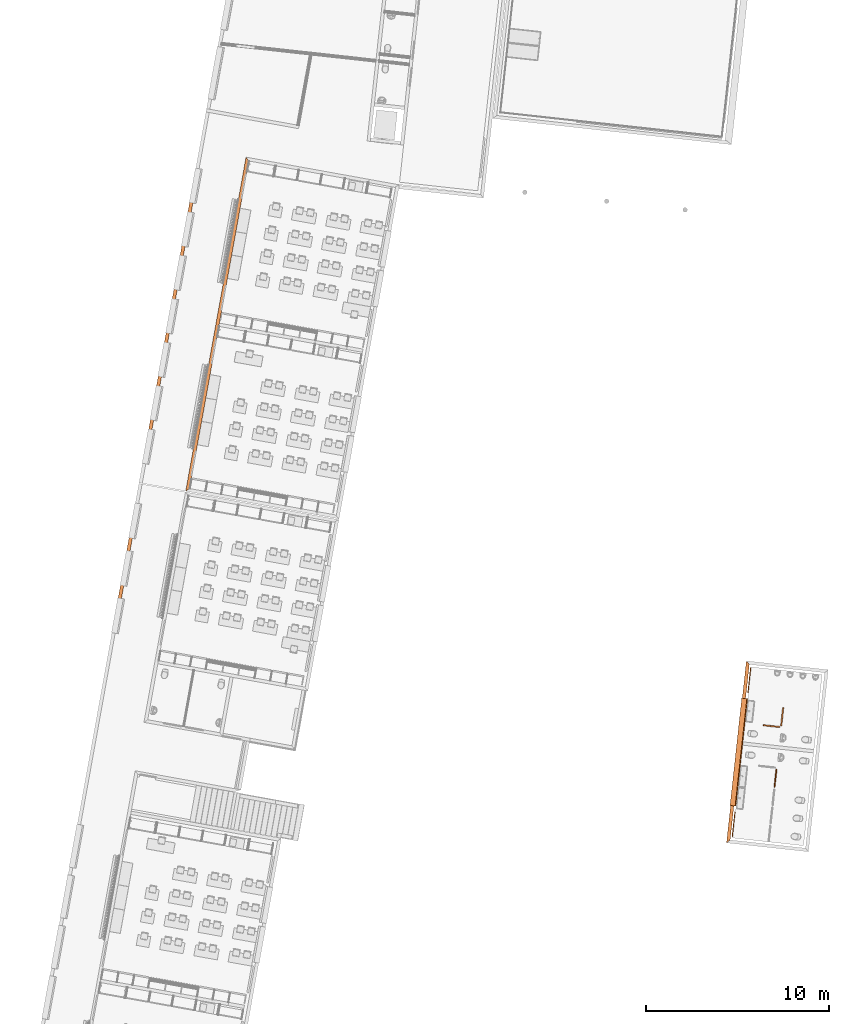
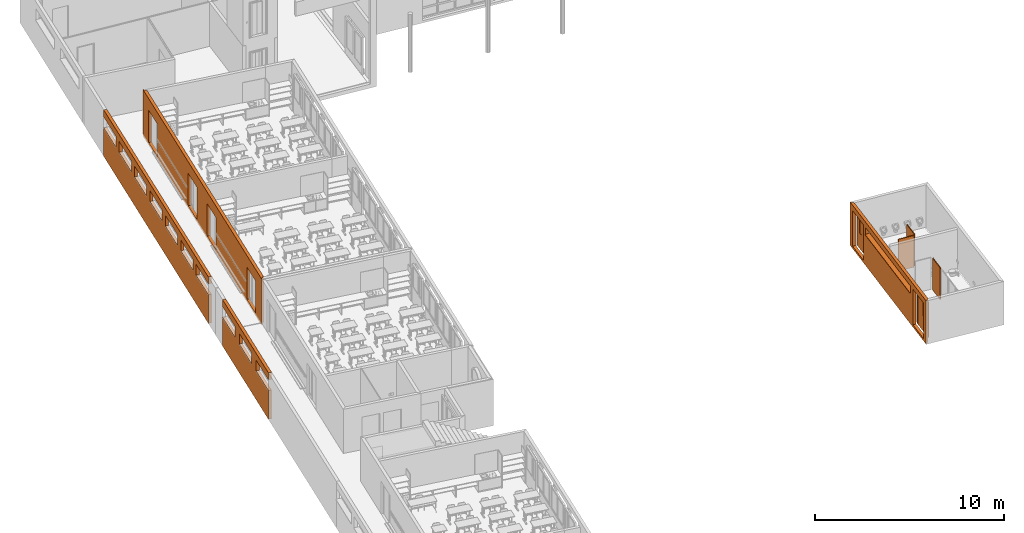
# One storey, part 65 of 79: 10 proxies.
"""IFC2X3 building model written with IfcOpenShell, lengths in metres."""

import ifcopenshell
import ifcopenshell.guid

model = None  # the IFC model being written
_history = None  # IfcOwnerHistory: only IFC2X3 demands one
_inside = {}  # id of a spatial element -> (the spatial element, [elements in it])
_under = {}  # id of a project, library or spatial element -> (it, [spatial elements below it])
_declared = {}  # id of a project -> (the project, [libraries it declares])
_typed = {}  # id of a type object -> (the type object, [elements of that type])
_made_of = {}  # id of a material, layer set ... -> (it, [elements and type objects made of it])


def new_model(schema):
    """Start an empty IFC model of exactly this schema.

    Asked for "IFC4X3", IfcOpenShell would pick the latest addendum, in which some entities
    have other attributes; the version numbers below select the first issue.
    IFC2X3 requires an IfcOwnerHistory on every rooted entity: one is made here for all.
    """
    global model, _history
    if schema == "IFC4X3":
        model = ifcopenshell.file(schema_version=(4, 3, 0, 0))
    else:
        model = ifcopenshell.file(schema=schema)
    _inside.clear()
    _under.clear()
    _declared.clear()
    _typed.clear()
    _made_of.clear()
    _history = None
    if model.schema == "IFC2X3":
        org = make("IfcOrganization", Name="unknown")
        user = make(
            "IfcPersonAndOrganization",
            ThePerson=make("IfcPerson", FamilyName="unknown"),
            TheOrganization=org,
        )
        app = make(
            "IfcApplication",
            ApplicationDeveloper=org,
            Version="unknown",
            ApplicationFullName="unknown",
            ApplicationIdentifier="unknown",
        )
        _history = make(
            "IfcOwnerHistory",
            OwningUser=user,
            OwningApplication=app,
            ChangeAction="ADDED",
            CreationDate=0,
        )
    return model


def make(cls, **values):
    """One entity of the class cls with the attributes given. An attribute that is None is left unset."""
    return model.create_entity(
        cls, **{name: value for name, value in values.items() if value is not None}
    )


def entity(cls, *values):
    """Any entity or typed value of the class cls, its attributes in the order of the schema. None: left unset."""
    e = model.create_entity(cls)
    for i, value in enumerate(values):
        if value is not None:
            e[i] = value
    return e


def rooted(cls, **values):
    """An entity with a GlobalId (a new one), such as an element, a storey or a relation."""
    return make(cls, GlobalId=ifcopenshell.guid.new(), OwnerHistory=_history, **values)


def si_unit(unit_type, name, prefix=None):
    """IfcSIUnit, for example si_unit("LENGTHUNIT", "METRE", prefix="MILLI")."""
    return make("IfcSIUnit", UnitType=unit_type, Prefix=prefix, Name=name)


def converted_unit(unit_type, name, factor, base, dimensions=None, offset=None):
    """IfcConversionBasedUnit, such as the inch: factor (a typed value) times the base unit."""
    return make(
        "IfcConversionBasedUnit"
        if offset is None
        else "IfcConversionBasedUnitWithOffset",
        ConversionOffset=offset,
        Dimensions=None
        if dimensions is None
        else entity("IfcDimensionalExponents", *dimensions),
        UnitType=unit_type,
        Name=name,
        ConversionFactor=make(
            "IfcMeasureWithUnit", ValueComponent=factor, UnitComponent=base
        ),
    )


def derived_unit(unit_type, elements):
    """IfcDerivedUnit: a product of units, each with its exponent."""
    return make(
        "IfcDerivedUnit",
        Elements=[
            make("IfcDerivedUnitElement", Unit=unit, Exponent=power)
            for unit, power in elements
        ],
        UnitType=unit_type,
    )


def money_unit(currency):
    """IfcMonetaryUnit."""
    return make("IfcMonetaryUnit", Currency=currency)


def assignment(units):
    """IfcUnitAssignment: the units of a project."""
    return None if units is None else make("IfcUnitAssignment", Units=units)


def point(xyz):
    """IfcCartesianPoint."""
    return None if xyz is None else make("IfcCartesianPoint", Coordinates=xyz)


def direction(xyz):
    """IfcDirection."""
    return None if xyz is None else make("IfcDirection", DirectionRatios=xyz)


def frame(location, z_axis=None, x_axis=None):
    """IfcAxis2Placement3D, a coordinate frame: its origin and axes. An axis left out is left unset."""
    return make(
        "IfcAxis2Placement3D",
        Location=point(location),
        Axis=direction(z_axis),
        RefDirection=direction(x_axis),
    )


def origin_with_axes():
    """The frame at (0, 0, 0) with the z axis (0, 0, 1) and the x axis (1, 0, 0) written out."""
    return frame((0.0, 0.0, 0.0), z_axis=(0.0, 0.0, 1.0), x_axis=(1.0, 0.0, 0.0))


def place(relative_to, where):
    """IfcLocalPlacement: puts the frame where relative to a parent placement (None: the world)."""
    return make(
        "IfcLocalPlacement", PlacementRelTo=relative_to, RelativePlacement=where
    )


def context(
    kind, dimensions, precision=None, world=None, true_north=None, identifier=None
):
    """IfcGeometricRepresentationContext, for example the 3D "Model" context."""
    return make(
        "IfcGeometricRepresentationContext",
        ContextIdentifier=identifier,
        ContextType=kind,
        CoordinateSpaceDimension=dimensions,
        Precision=precision,
        WorldCoordinateSystem=world,
        TrueNorth=true_north,
    )


def subcontext(parent, identifier, kind, view, scale=None):
    """IfcGeometricRepresentationSubContext, for example "Body" below "Model"."""
    return make(
        "IfcGeometricRepresentationSubContext",
        ContextIdentifier=identifier,
        ContextType=kind,
        ParentContext=parent,
        TargetScale=scale,
        TargetView=view,
    )


def project(units=None, contexts=None):
    """IfcProject with its units and contexts."""
    return rooted(
        "IfcProject",
        Name="project",
        RepresentationContexts=contexts,
        UnitsInContext=assignment(units),
    )


def spatial(cls, under=None, at=None, **own):
    """A site, building, storey or space (cls), placed at a placement, below another one or the project."""
    s = rooted(cls, ObjectPlacement=at, **own)
    if under is not None:
        _under.setdefault(under.id(), (under, []))[1].append(s)
    return s


def polyline(points):
    """IfcPolyline through the points."""
    return make("IfcPolyline", Points=[point(p) for p in points])


def outline(outer, holes=None, kind="AREA"):
    """IfcArbitraryClosedProfileDef: a profile drawn as a closed curve; with holes, ...WithVoids."""
    if holes is None:
        return make("IfcArbitraryClosedProfileDef", ProfileType=kind, OuterCurve=outer)
    return make(
        "IfcArbitraryProfileDefWithVoids",
        ProfileType=kind,
        OuterCurve=outer,
        InnerCurves=holes,
    )


def extrude(swept, where, along, depth):
    """IfcExtrudedAreaSolid: the profile swept, set in the frame where, extruded along a direction by depth."""
    return make(
        "IfcExtrudedAreaSolid",
        SweptArea=swept,
        Position=where,
        ExtrudedDirection=direction(along),
        Depth=depth,
    )


def boolean(op, a, b):
    """IfcBooleanResult of two solids."""
    return make("IfcBooleanResult", Operator=op, FirstOperand=a, SecondOperand=b)


def faces_of(points, faces, orient=None, outer=None):
    """IfcFace entities. A face is a list of loops; a loop is a list of indices into points, from 0.

    orient and outer hold one flag for each loop. By default every Orientation is true, the
    first loop of a face is its IfcFaceOuterBound and the others are IfcFaceBound.
    """
    made = []
    for i, loops in enumerate(faces):
        bounds = []
        for j, loop in enumerate(loops):
            is_outer = j == 0 if outer is None else outer[i][j]
            bounds.append(
                make(
                    "IfcFaceOuterBound" if is_outer else "IfcFaceBound",
                    Bound=make("IfcPolyLoop", Polygon=[points[k] for k in loop]),
                    Orientation=True if orient is None else orient[i][j],
                )
            )
        made.append(make("IfcFace", Bounds=bounds))
    return made


def open_shell(faces, orient=None, outer=None):
    """The faces of one IfcOpenShell. surface_model builds it on its shared points."""
    return ("IfcOpenShell", faces, orient, outer)


def faceted_brep(points, faces, orient=None, outer=None, voids=None):
    """IfcFacetedBrep: a solid bounded by flat faces; with voids (closed shells), ...WithVoids."""
    shared = [point(p) for p in points]
    hull = make("IfcClosedShell", CfsFaces=faces_of(shared, faces, orient, outer))
    if voids is None:
        return make("IfcFacetedBrep", Outer=hull)
    return make(
        "IfcFacetedBrepWithVoids",
        Outer=hull,
        Voids=[
            make(cls, CfsFaces=faces_of(shared, fs, o, b)) for cls, fs, o, b in voids
        ],
    )


def surface_model(cls, points, shells):
    """IfcFaceBasedSurfaceModel or IfcShellBasedSurfaceModel (cls): surfaces that need not close."""
    shared = [point(p) for p in points]
    made = [make(c, CfsFaces=faces_of(shared, fs, o, b)) for c, fs, o, b in shells]
    if cls == "IfcFaceBasedSurfaceModel":
        return make(cls, FbsmFaces=made)
    return make(cls, SbsmBoundary=made)


def shape(context_of_items, identifier, shape_type, items):
    """IfcShapeRepresentation: the items that make up one representation, for example the "Body"."""
    return make(
        "IfcShapeRepresentation",
        ContextOfItems=context_of_items,
        RepresentationIdentifier=identifier,
        RepresentationType=shape_type,
        Items=items,
    )


def material(Name=None, Category=None):
    """IfcMaterial."""
    return make("IfcMaterial", Name=Name, Category=Category)


def made_of(thing, what):
    """Note that an element or type object is made of a material, layer set ...; save() writes the relation."""
    if what is not None:
        _made_of.setdefault(what.id(), (what, []))[1].append(thing)
    return thing


def type_object(cls, material=None, **own):
    """A type object (cls), such as IfcWallType, which elements share."""
    return made_of(rooted(cls, **own), material)


def element(
    cls,
    number,
    at=None,
    inside=None,
    cuts=None,
    type_object=None,
    material=None,
    context=None,
    identifier="Body",
    shape_type=None,
    held_by="IfcProductDefinitionShape",
    body=None,
    shapes=None,
    **own,
):
    """One element of the class cls, such as IfcWall. Its Tag is "e" and its number.

    at: its placement. inside: the storey or other place that contains it. cuts: it is an
    opening in that element (IfcRelVoidsElement). A single representation is given by context,
    identifier, shape_type and body (its items); several are given by shapes. held_by: the class
    of the entity that holds the representations. save() writes the other relations.
    """
    e = rooted(cls, Tag="e%d" % number, ObjectPlacement=at, **own)
    if body is not None:
        shapes = [shape(context, identifier, shape_type, body)]
    if shapes is not None:
        e.Representation = make(held_by, Representations=shapes)
    if inside is not None:
        _inside.setdefault(inside.id(), (inside, []))[1].append(e)
    if cuts is not None:
        rooted(
            "IfcRelVoidsElement", RelatingBuildingElement=cuts, RelatedOpeningElement=e
        )
    if type_object is not None:
        _typed.setdefault(type_object.id(), (type_object, []))[1].append(e)
    return made_of(e, material)


def aggregate(whole, parts):
    """IfcRelAggregates: a whole, such as a stair, and the parts it consists of."""
    return rooted("IfcRelAggregates", RelatingObject=whole, RelatedObjects=parts)


def save(model, path):
    """Write the relations noted so far, then the file.

    IfcRelAggregates (storeys below a building ...), IfcRelContainedInSpatialStructure (elements
    in a storey), IfcRelDefinesByType, IfcRelAssociatesMaterial and IfcRelDeclares: one each for
    every whole, place, type object, material and project.
    """
    for whole, parts in _under.values():
        aggregate(whole, parts)
    for where, things in _inside.values():
        rooted(
            "IfcRelContainedInSpatialStructure",
            RelatedElements=things,
            RelatingStructure=where,
        )
    for kind, things in _typed.values():
        rooted("IfcRelDefinesByType", RelatedObjects=things, RelatingType=kind)
    for what, things in _made_of.values():
        rooted("IfcRelAssociatesMaterial", RelatedObjects=things, RelatingMaterial=what)
    for by, libraries in _declared.values():
        rooted("IfcRelDeclares", RelatingContext=by, RelatedDefinitions=libraries)
    model.write(path)


model = new_model("IFC2X3")

# Units and contexts
model_context = context("Model", 3, precision=1e-05, world=origin_with_axes(), true_north=direction((0.0, 1.0)))
body_context = subcontext(model_context, "Body", "Model", "MODEL_VIEW")
ifc_project = project(units=[si_unit("LENGTHUNIT", "METRE"), si_unit("AREAUNIT", "SQUARE_METRE"), si_unit("VOLUMEUNIT", "CUBIC_METRE"), converted_unit("PLANEANGLEUNIT", "DEGREE", entity("IfcPlaneAngleMeasure", 0.0174532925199), si_unit("PLANEANGLEUNIT", "RADIAN"), dimensions=[0, 0, 0, 0, 0, 0, 0]), money_unit("CHF"), converted_unit("TIMEUNIT", "Year", entity("IfcTimeMeasure", 31556926.0), si_unit("TIMEUNIT", "SECOND"), dimensions=[0, 0, 1, 0, 0, 0, 0]), si_unit("MASSUNIT", "GRAM", prefix="KILO"), si_unit("THERMODYNAMICTEMPERATUREUNIT", "DEGREE_CELSIUS"), si_unit("LUMINOUSINTENSITYUNIT", "LUMEN"), si_unit("ENERGYUNIT", "JOULE", prefix="MEGA"), derived_unit("THERMALCONDUCTANCEUNIT", [(si_unit("POWERUNIT", "WATT"), 1), (si_unit("LENGTHUNIT", "METRE"), -1), (si_unit("THERMODYNAMICTEMPERATUREUNIT", "KELVIN"), -1)]), derived_unit("SPECIFICHEATCAPACITYUNIT", [(si_unit("ENERGYUNIT", "JOULE"), 1), (si_unit("MASSUNIT", "GRAM", prefix="KILO"), -1), (si_unit("THERMODYNAMICTEMPERATUREUNIT", "KELVIN"), -1)]), derived_unit("MASSDENSITYUNIT", [(si_unit("MASSUNIT", "GRAM", prefix="KILO"), 1), (si_unit("VOLUMEUNIT", "CUBIC_METRE"), -1)])], contexts=[model_context])

# Site, building, storey
site_placement = place(None, frame((0.0, 0.0, 0.0), z_axis=(0.0, 0.0, 1.0), x_axis=(-0.177771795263, -0.984071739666, 0.0)))
site = spatial("IfcSite", under=ifc_project, at=site_placement, Name="Site", CompositionType="ELEMENT")
building_placement = place(site_placement, origin_with_axes())
building = spatial("IfcBuilding", under=site, at=building_placement, Name="Bâtiment", CompositionType="ELEMENT")
storey_placement = place(building_placement, origin_with_axes())
storey = spatial("IfcBuildingStorey", under=building, at=storey_placement, Name="RDC", CompositionType="ELEMENT", Elevation=0.0)

# Proxies
ifc_material_1 = material(Name="_BA banché RAL9007")
building_element_proxy_type_1 = type_object("IfcBuildingElementProxyType", Name="_BA banché RAL9007 180", PredefinedType="NOTDEFINED")
proxy_1_placement = place(storey_placement, frame((128.464841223, -156.627151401, -0.15), z_axis=(0.0, 0.0, 1.0), x_axis=(-1.0, 0.0, 0.0)))
element("IfcBuildingElementProxy", 1, at=proxy_1_placement, inside=storey, type_object=building_element_proxy_type_1, material=ifc_material_1, Name="M refend", context=body_context, shape_type="CSG", body=[
    boolean("DIFFERENCE", boolean("DIFFERENCE", boolean("DIFFERENCE", boolean("DIFFERENCE", extrude(outline(polyline([(0.179999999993, -0.18), (18.36, -0.18), (18.54, 0.0), (0.0, 0.0), (0.179999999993, -0.18)])), origin_with_axes(), (0.0, 0.0, 1.0), 3.0), faceted_brep([(17.66, 0.0, 0.15), (16.26, 0.0, 0.15), (16.26, 0.0, 2.25), (17.66, 0.0, 2.25), (17.66, -0.18, 0.15), (16.26, -0.18, 0.15), (16.26, -0.18, 2.25), (17.66, -0.18, 2.25)], [[[0, 1, 2, 3]], [[4, 5, 1, 0]], [[5, 6, 2, 1]], [[6, 7, 3, 2]], [[7, 4, 0, 3]], [[4, 7, 6, 5]]])), faceted_brep([(11.46, 0.0, 0.15), (10.06, 0.0, 0.15), (10.06, 0.0, 2.25), (11.46, 0.0, 2.25), (11.46, -0.18, 0.15), (10.06, -0.18, 0.15), (10.06, -0.18, 2.25), (11.46, -0.18, 2.25)], [[[0, 1, 2, 3]], [[4, 5, 1, 0]], [[5, 6, 2, 1]], [[6, 7, 3, 2]], [[7, 4, 0, 3]], [[4, 7, 6, 5]]])), faceted_brep([(8.47999999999, 0.0, 0.15), (7.07999999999, 0.0, 0.15), (7.07999999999, 0.0, 2.25), (8.47999999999, 0.0, 2.25), (8.47999999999, -0.18, 0.15), (7.07999999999, -0.18, 0.15), (7.07999999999, -0.18, 2.25), (8.47999999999, -0.18, 2.25)], [[[0, 1, 2, 3]], [[4, 5, 1, 0]], [[5, 6, 2, 1]], [[6, 7, 3, 2]], [[7, 4, 0, 3]], [[4, 7, 6, 5]]])), faceted_brep([(2.27999999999, 0.0, 0.15), (0.879999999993, 0.0, 0.15), (0.879999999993, 0.0, 2.25), (2.27999999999, 0.0, 2.25), (2.27999999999, -0.18, 0.15), (0.879999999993, -0.18, 0.15), (0.879999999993, -0.18, 2.25), (2.27999999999, -0.18, 2.25)], [[[0, 1, 2, 3]], [[4, 5, 1, 0]], [[5, 6, 2, 1]], [[6, 7, 3, 2]], [[7, 4, 0, 3]], [[4, 7, 6, 5]]])),
])
ifc_material_2 = material(Name="Matériau de construction IFC")
building_element_proxy_type_2 = type_object("IfcBuildingElementProxyType", Name="Porte 21", PredefinedType="NOTDEFINED")
proxy_2_placement = place(storey_placement, frame((135.295941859, -122.41821935, 0.05), z_axis=(0.0, 0.0, 1.0), x_axis=(0.0700486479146, -0.997543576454, 0.0)))
element("IfcBuildingElementProxy", 2, at=proxy_2_placement, inside=storey, type_object=building_element_proxy_type_2, material=ifc_material_2, Name="P_Int BlocSanit", context=body_context, shape_type="Brep", body=[
    faceted_brep([(0.9, 0.1, 0.0), (0.9, 0.05, 0.0), (0.85, 0.05, 0.0), (0.85, 0.1, 0.0), (0.9, 0.1, 2.0), (0.9, 0.05, 2.0), (0.85, 0.05, 2.0), (0.85, 0.1, 2.0)], [[[0, 1, 2, 3]], [[4, 5, 1, 0]], [[1, 5, 6, 2]], [[3, 2, 6, 7]], [[0, 3, 7, 4]], [[7, 6, 5, 4]]]),
    faceted_brep([(0.0, 0.1, 0.0), (0.0, 0.05, 0.0), (0.0, 0.05, 2.0), (0.0, 0.1, 2.0), (0.05, 0.1, 0.0), (0.05, 0.05, 0.0), (0.05, 0.05, 2.0), (0.05, 0.1, 2.0)], [[[0, 1, 2, 3]], [[4, 5, 1, 0]], [[1, 5, 6, 2]], [[3, 2, 6, 7]], [[0, 3, 7, 4]], [[7, 6, 5, 4]]]),
    faceted_brep([(0.9, 0.1, 2.05), (0.9, 0.05, 2.05), (0.9, 0.05, 2.0), (0.9, 0.1, 2.0), (0.0, 0.1, 2.05), (0.0, 0.05, 2.05), (0.0, 0.05, 2.0), (0.05, 0.05, 2.0), (0.85, 0.05, 2.0), (0.85, 0.1, 2.0), (0.05, 0.1, 2.0), (0.0, 0.1, 2.0)], [[[0, 1, 2, 3]], [[4, 5, 1, 0]], [[1, 5, 6, 7, 8, 2]], [[3, 2, 8, 9]], [[0, 3, 9, 10, 11, 4]], [[11, 6, 5, 4]], [[10, 7, 6, 11]], [[9, 8, 7, 10]]]),
    faceted_brep([(0.05, 0.1, 0.0), (0.85, 0.1, 0.0), (0.85, 0.0599999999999, 0.0), (0.05, 0.06, 0.0), (0.05, 0.1, 2.0), (0.85, 0.1, 2.0), (0.85, 0.0599999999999, 2.0), (0.05, 0.06, 2.0)], [[[0, 1, 2, 3]], [[0, 4, 5, 1]], [[1, 5, 6, 2]], [[3, 2, 6, 7]], [[4, 0, 3, 7]], [[5, 4, 7, 6]]]),
])
proxy_3_placement = place(storey_placement, frame((138.667638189, -122.181454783, 0.05), z_axis=(0.0, 0.0, 1.0), x_axis=(-0.997543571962, -0.0700487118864, 0.0)))
element("IfcBuildingElementProxy", 3, at=proxy_3_placement, inside=storey, type_object=building_element_proxy_type_2, material=ifc_material_2, Name="P_Int BlocSanit", context=body_context, shape_type="Brep", body=[
    faceted_brep([(0.0, -0.05, 0.0), (0.05, -0.05, 0.0), (0.05, -0.1, 0.0), (0.0, -0.1, 0.0), (0.0, -0.05, 2.0), (0.05, -0.05, 2.0), (0.05, -0.1, 2.0), (0.0, -0.1, 2.0)], [[[0, 1, 2, 3]], [[0, 4, 5, 1]], [[1, 5, 6, 2]], [[3, 2, 6, 7]], [[4, 0, 3, 7]], [[5, 4, 7, 6]]]),
    faceted_brep([(1.0, -0.05, 0.0), (1.0, -0.05, 2.0), (1.0, -0.1, 2.0), (1.0, -0.1, 0.0), (0.95, -0.05, 0.0), (0.95, -0.05, 2.0), (0.95, -0.1, 2.0), (0.95, -0.1, 0.0)], [[[0, 1, 2, 3]], [[0, 4, 5, 1]], [[1, 5, 6, 2]], [[3, 2, 6, 7]], [[4, 0, 3, 7]], [[5, 4, 7, 6]]]),
    faceted_brep([(0.0, -0.05, 2.05), (0.0, -0.05, 2.0), (0.0, -0.1, 2.0), (0.0, -0.1, 2.05), (1.0, -0.05, 2.05), (1.0, -0.05, 2.0), (0.95, -0.05, 2.0), (0.05, -0.05, 2.0), (0.05, -0.1, 2.0), (0.95, -0.1, 2.0), (1.0, -0.1, 2.0), (1.0, -0.1, 2.05)], [[[0, 1, 2, 3]], [[0, 4, 5, 6, 7, 1]], [[1, 7, 8, 2]], [[3, 2, 8, 9, 10, 11]], [[4, 0, 3, 11]], [[5, 4, 11, 10]], [[6, 5, 10, 9]], [[7, 6, 9, 8]]]),
    faceted_brep([(0.95, -0.05, 0.0), (0.95, -0.09, 0.0), (0.05, -0.09, 0.0), (0.05, -0.05, 0.0), (0.95, -0.05, 2.0), (0.95, -0.09, 2.0), (0.05, -0.09, 2.0), (0.05, -0.05, 2.0)], [[[0, 1, 2, 3]], [[4, 5, 1, 0]], [[1, 5, 6, 2]], [[3, 2, 6, 7]], [[0, 3, 7, 4]], [[7, 6, 5, 4]]]),
])
proxy_4_placement = place(storey_placement, frame((135.295941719, -122.418219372, 0.05), z_axis=(0.0, 0.0, 1.0), x_axis=(-0.997543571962, -0.0700487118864, 0.0)))
element("IfcBuildingElementProxy", 4, at=proxy_4_placement, inside=storey, type_object=building_element_proxy_type_2, material=ifc_material_2, Name="P_Int BlocSanit", context=body_context, shape_type="Brep", body=[
    faceted_brep([(1.0, -0.05, 0.0), (1.0, -0.1, 0.0), (0.95, -0.1, 0.0), (0.95, -0.05, 0.0), (1.0, -0.05, 2.0), (1.0, -0.1, 2.0), (0.95, -0.1, 2.0), (0.95, -0.05, 2.0)], [[[0, 1, 2, 3]], [[4, 5, 1, 0]], [[1, 5, 6, 2]], [[3, 2, 6, 7]], [[0, 3, 7, 4]], [[7, 6, 5, 4]]]),
    faceted_brep([(0.0, -0.05, 0.0), (0.0, -0.1, 0.0), (0.0, -0.1, 2.0), (0.0, -0.05, 2.0), (0.05, -0.05, 0.0), (0.05, -0.1, 0.0), (0.05, -0.1, 2.0), (0.05, -0.05, 2.0)], [[[0, 1, 2, 3]], [[4, 5, 1, 0]], [[1, 5, 6, 2]], [[3, 2, 6, 7]], [[0, 3, 7, 4]], [[7, 6, 5, 4]]]),
    faceted_brep([(1.0, -0.05, 2.05), (1.0, -0.1, 2.05), (1.0, -0.1, 2.0), (1.0, -0.05, 2.0), (0.0, -0.05, 2.05), (0.0, -0.1, 2.05), (0.0, -0.1, 2.0), (0.05, -0.1, 2.0), (0.95, -0.1, 2.0), (0.95, -0.05, 2.0), (0.05, -0.05, 2.0), (0.0, -0.05, 2.0)], [[[0, 1, 2, 3]], [[4, 5, 1, 0]], [[1, 5, 6, 7, 8, 2]], [[3, 2, 8, 9]], [[0, 3, 9, 10, 11, 4]], [[11, 6, 5, 4]], [[10, 7, 6, 11]], [[9, 8, 7, 10]]]),
    faceted_brep([(0.05, -0.05, 0.0), (0.95, -0.05, 0.0), (0.95, -0.09, 0.0), (0.05, -0.09, 0.0), (0.05, -0.05, 2.0), (0.95, -0.05, 2.0), (0.95, -0.09, 2.0), (0.05, -0.09, 2.0)], [[[0, 1, 2, 3]], [[0, 4, 5, 1]], [[1, 5, 6, 2]], [[3, 2, 6, 7]], [[4, 0, 3, 7]], [[5, 4, 7, 6]]]),
])
building_element_proxy_type_3 = type_object("IfcBuildingElementProxyType", Name="_M ext couloir 360 x 3000", PredefinedType="NOTDEFINED")
proxy_5_placement = place(storey_placement, frame((127.384841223, -159.217107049, -0.15), z_axis=(0.0, 0.0, 1.0), x_axis=(-1.0, 0.0, 0.0)))
element("IfcBuildingElementProxy", 5, at=proxy_5_placement, inside=storey, type_object=building_element_proxy_type_3, material=ifc_material_1, Name="M ext-Ouest", context=body_context, shape_type="CSG", body=[
    boolean("DIFFERENCE", boolean("DIFFERENCE", boolean("DIFFERENCE", boolean("DIFFERENCE", boolean("DIFFERENCE", boolean("DIFFERENCE", boolean("DIFFERENCE", extrude(outline(polyline([(-0.18, 2.55), (-0.18, 1.82), (-0.18, 0.0), (0.0, 0.0), (0.0, 1.82), (0.0, 2.55), (0.0, 3.0), (-0.18, 3.0), (-0.18, 2.55)])), frame((0.0, 0.0, 0.0), z_axis=(1.0, 0.0, 0.0), x_axis=(0.0, 1.0, 0.0)), (0.0, 0.0, 1.0), 16.38), faceted_brep([(14.47, -0.18, 1.85), (16.38, -0.18, 1.85), (16.38, -0.18, 2.55), (14.47, -0.18, 2.55), (14.47, 0.0, 1.85), (16.38, 0.0, 1.85), (16.38, 0.0, 2.55), (14.47, 0.0, 2.55)], [[[0, 1, 2, 3]], [[1, 0, 4, 5]], [[6, 2, 1, 5]], [[3, 2, 6, 7]], [[0, 3, 7, 4]], [[7, 6, 5, 4]]])), faceted_brep([(13.9683333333, 0.0, 1.85), (12.0583333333, 0.0, 1.85), (12.0583333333, 0.0, 2.55), (13.9683333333, 0.0, 2.55), (13.9683333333, -0.18, 1.85), (12.0583333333, -0.18, 1.85), (12.0583333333, -0.18, 2.55), (13.9683333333, -0.18, 2.55)], [[[0, 1, 2, 3]], [[4, 5, 1, 0]], [[5, 6, 2, 1]], [[6, 7, 3, 2]], [[7, 4, 0, 3]], [[4, 7, 6, 5]]])), faceted_brep([(11.5566666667, 0.0, 1.85), (9.6466666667, 0.0, 1.85), (9.6466666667, 0.0, 2.55), (11.5566666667, 0.0, 2.55), (11.5566666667, -0.18, 1.85), (9.6466666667, -0.18, 1.85), (9.6466666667, -0.18, 2.55), (11.5566666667, -0.18, 2.55)], [[[0, 1, 2, 3]], [[4, 5, 1, 0]], [[5, 6, 2, 1]], [[6, 7, 3, 2]], [[7, 4, 0, 3]], [[4, 7, 6, 5]]])), faceted_brep([(9.145, 0.0, 1.85), (7.235, 0.0, 1.85), (7.235, 0.0, 2.55), (9.145, 0.0, 2.55), (9.145, -0.18, 1.85), (7.235, -0.18, 1.85), (7.235, -0.18, 2.55), (9.145, -0.18, 2.55)], [[[0, 1, 2, 3]], [[4, 5, 1, 0]], [[5, 6, 2, 1]], [[6, 7, 3, 2]], [[7, 4, 0, 3]], [[4, 7, 6, 5]]])), faceted_brep([(6.73333333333, 0.0, 1.85), (4.82333333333, 0.0, 1.85), (4.82333333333, 0.0, 2.55), (6.73333333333, 0.0, 2.55), (6.73333333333, -0.18, 1.85), (4.82333333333, -0.18, 1.85), (4.82333333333, -0.18, 2.55), (6.73333333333, -0.18, 2.55)], [[[0, 1, 2, 3]], [[4, 5, 1, 0]], [[5, 6, 2, 1]], [[6, 7, 3, 2]], [[7, 4, 0, 3]], [[4, 7, 6, 5]]])), faceted_brep([(4.32166666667, 0.0, 1.85), (2.41166666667, 0.0, 1.85), (2.41166666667, 0.0, 2.55), (4.32166666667, 0.0, 2.55), (4.32166666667, -0.18, 1.85), (2.41166666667, -0.18, 1.85), (2.41166666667, -0.18, 2.55), (4.32166666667, -0.18, 2.55)], [[[0, 1, 2, 3]], [[4, 5, 1, 0]], [[5, 6, 2, 1]], [[6, 7, 3, 2]], [[7, 4, 0, 3]], [[4, 7, 6, 5]]])), faceted_brep([(1.91, -0.18, 1.85), (1.91, -0.18, 2.55), (0.0, -0.18, 2.55), (0.0, -0.18, 1.85), (1.91, 0.0, 1.85), (1.91, 0.0, 2.55), (0.0, 0.0, 2.55), (0.0, 0.0, 1.85)], [[[0, 1, 2, 3]], [[1, 0, 4, 5]], [[6, 2, 1, 5]], [[7, 3, 2, 6]], [[0, 3, 7, 4]], [[4, 7, 6, 5]]])),
])
proxy_6_placement = place(storey_placement, frame((136.784841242, -159.217107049, -0.15), z_axis=(0.0, 0.0, 1.0), x_axis=(-1.0, 0.0, 0.0)))
element("IfcBuildingElementProxy", 6, at=proxy_6_placement, inside=storey, type_object=building_element_proxy_type_3, material=ifc_material_1, Name="M ext-Ouest", context=body_context, shape_type="CSG", body=[
    boolean("DIFFERENCE", boolean("DIFFERENCE", boolean("DIFFERENCE", extrude(outline(polyline([(-0.18, 2.55), (-0.18, 1.82), (-0.18, 0.0), (0.0, 0.0), (0.0, 1.82), (0.0, 2.55), (0.0, 3.0), (-0.18, 3.0), (-0.18, 2.55)])), frame((0.0, 0.0, 0.0), z_axis=(1.0, 0.0, 0.0), x_axis=(0.0, 1.0, 0.0)), (0.0, 0.0, 1.0), 7.2), faceted_brep([(5.265, -0.18, 1.85), (7.2, -0.18, 1.85), (7.2, -0.18, 2.55), (5.265, -0.18, 2.55), (5.265, 0.0, 1.85), (7.2, 0.0, 1.85), (7.2, 0.0, 2.55), (5.265, 0.0, 2.55)], [[[0, 1, 2, 3]], [[1, 0, 4, 5]], [[6, 2, 1, 5]], [[3, 2, 6, 7]], [[0, 3, 7, 4]], [[7, 6, 5, 4]]])), faceted_brep([(4.565, 0.0, 1.85), (2.63, 0.0, 1.85), (2.63, 0.0, 2.55), (4.565, 0.0, 2.55), (4.565, -0.18, 1.85), (2.63, -0.18, 1.85), (2.63, -0.18, 2.55), (4.565, -0.18, 2.55)], [[[0, 1, 2, 3]], [[4, 5, 1, 0]], [[5, 6, 2, 1]], [[6, 7, 3, 2]], [[7, 4, 0, 3]], [[4, 7, 6, 5]]])), faceted_brep([(1.935, -0.18, 1.85), (1.935, -0.18, 2.55), (0.0, -0.18, 2.55), (0.0, -0.18, 1.85), (1.935, 0.0, 1.85), (1.935, 0.0, 2.55), (0.0, 0.0, 2.55), (0.0, 0.0, 1.85)], [[[0, 1, 2, 3]], [[1, 0, 4, 5]], [[6, 2, 1, 5]], [[7, 3, 2, 6]], [[0, 3, 7, 4]], [[4, 7, 6, 5]]])),
])
building_element_proxy_type_4 = type_object("IfcBuildingElementProxyType", Name="Porte double 21", PredefinedType="NOTDEFINED")
proxy_7_placement = place(storey_placement, frame((132.477369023, -124.821560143, 0.05), z_axis=(0.0, 0.0, 1.0), x_axis=(0.997543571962, 0.0700487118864, 0.0)))
element("IfcBuildingElementProxy", 7, at=proxy_7_placement, inside=storey, type_object=building_element_proxy_type_4, material=ifc_material_2, Name="P-Ext-BlocSanit", context=body_context, shape_type="SurfaceModel", body=[
    faceted_brep([(1.4, 0.3, 0.0), (1.4, 0.25, 0.0), (1.35, 0.25, 0.0), (1.35, 0.3, 0.0), (1.4, 0.3, 2.25), (1.4, 0.25, 2.25), (1.35, 0.25, 2.25), (1.35, 0.3, 2.25)], [[[0, 1, 2, 3]], [[4, 5, 1, 0]], [[1, 5, 6, 2]], [[3, 2, 6, 7]], [[0, 3, 7, 4]], [[7, 6, 5, 4]]]),
    faceted_brep([(0.0, 0.3, 0.0), (0.0, 0.25, 0.0), (0.0, 0.25, 2.25), (0.0, 0.3, 2.25), (0.05, 0.3, 0.0), (0.05, 0.25, 0.0), (0.05, 0.25, 2.25), (0.05, 0.3, 2.25)], [[[0, 1, 2, 3]], [[4, 5, 1, 0]], [[1, 5, 6, 2]], [[3, 2, 6, 7]], [[0, 3, 7, 4]], [[7, 6, 5, 4]]]),
    faceted_brep([(1.4, 0.3, 2.3), (1.4, 0.25, 2.3), (1.4, 0.25, 2.25), (1.4, 0.3, 2.25), (0.0, 0.3, 2.3), (0.0, 0.25, 2.3), (0.0, 0.25, 2.25), (0.05, 0.25, 2.25), (1.35, 0.25, 2.25), (1.35, 0.3, 2.25), (0.05, 0.3, 2.25), (0.0, 0.3, 2.25)], [[[0, 1, 2, 3]], [[4, 5, 1, 0]], [[1, 5, 6, 7, 8, 2]], [[3, 2, 8, 9]], [[0, 3, 9, 10, 11, 4]], [[11, 6, 5, 4]], [[10, 7, 6, 11]], [[9, 8, 7, 10]]]),
    faceted_brep([(0.05, 0.3, 1.0), (0.35, 0.3, 1.0), (0.35, 0.26, 1.0), (0.05, 0.26, 1.0), (0.05, 0.3, 1.95), (0.35, 0.3, 1.95), (0.35, 0.26, 1.95), (0.05, 0.26, 1.95)], [[[0, 1, 2, 3]], [[0, 4, 5, 1]], [[1, 5, 6, 2]], [[3, 2, 6, 7]], [[4, 0, 3, 7]], [[5, 4, 7, 6]]]),
    faceted_brep([(0.95, 0.3, 1.0), (0.95, 0.3, 1.95), (0.95, 0.26, 1.95), (0.95, 0.26, 1.0), (0.65, 0.3, 1.0), (0.65, 0.3, 1.95), (0.65, 0.26, 1.95), (0.65, 0.26, 1.0)], [[[0, 1, 2, 3]], [[0, 4, 5, 1]], [[1, 5, 6, 2]], [[3, 2, 6, 7]], [[4, 0, 3, 7]], [[5, 4, 7, 6]]]),
    faceted_brep([(0.05, 0.3, 0.0), (0.95, 0.3, 0.0), (0.95, 0.26, 0.0), (0.05, 0.26, 0.0), (0.05, 0.3, 1.0), (0.35, 0.3, 1.0), (0.65, 0.3, 1.0), (0.95, 0.3, 1.0), (0.95, 0.26, 1.0), (0.65, 0.26, 1.0), (0.35, 0.26, 1.0), (0.05, 0.26, 1.0)], [[[0, 1, 2, 3]], [[0, 4, 5, 6, 7, 1]], [[1, 7, 8, 2]], [[3, 2, 8, 9, 10, 11]], [[4, 0, 3, 11]], [[5, 4, 11, 10]], [[6, 5, 10, 9]], [[7, 6, 9, 8]]]),
    faceted_brep([(0.05, 0.3, 2.25), (0.05, 0.3, 1.95), (0.05, 0.26, 1.95), (0.05, 0.26, 2.25), (0.95, 0.3, 2.25), (0.95, 0.3, 1.95), (0.65, 0.3, 1.95), (0.35, 0.3, 1.95), (0.35, 0.26, 1.95), (0.65, 0.26, 1.95), (0.95, 0.26, 1.95), (0.95, 0.26, 2.25)], [[[0, 1, 2, 3]], [[0, 4, 5, 6, 7, 1]], [[1, 7, 8, 2]], [[3, 2, 8, 9, 10, 11]], [[4, 0, 3, 11]], [[5, 4, 11, 10]], [[6, 5, 10, 9]], [[7, 6, 9, 8]]]),
    surface_model("IfcShellBasedSurfaceModel", [(0.35, 0.286, 1.0), (0.35, 0.286, 1.95), (0.65, 0.286, 1.95), (0.65, 0.286, 1.0)], [open_shell([[[0, 1, 2, 3]]])]),
    surface_model("IfcShellBasedSurfaceModel", [(0.35, 0.274, 1.0), (0.65, 0.274, 1.0), (0.65, 0.274, 1.95), (0.35, 0.274, 1.95)], [open_shell([[[0, 1, 2, 3]]])]),
    faceted_brep([(1.35, 0.3, 0.0), (1.35, 0.26, 0.0), (0.95, 0.26, 0.0), (0.95, 0.3, 0.0), (1.35, 0.3, 2.25), (1.35, 0.26, 2.25), (0.95, 0.26, 2.25), (0.95, 0.3, 2.25)], [[[0, 1, 2, 3]], [[4, 5, 1, 0]], [[1, 5, 6, 2]], [[3, 2, 6, 7]], [[0, 3, 7, 4]], [[7, 6, 5, 4]]]),
])
proxy_8_placement = place(storey_placement, frame((140.377914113, -124.266774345, 0.05), z_axis=(0.0, 0.0, 1.0), x_axis=(0.997543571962, 0.0700487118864, 0.0)))
element("IfcBuildingElementProxy", 8, at=proxy_8_placement, inside=storey, type_object=building_element_proxy_type_4, material=ifc_material_2, Name="P-Ext-BlocSanit", context=body_context, shape_type="SurfaceModel", body=[
    faceted_brep([(0.0, 0.3, 0.0), (0.05, 0.3, 0.0), (0.05, 0.25, 0.0), (0.0, 0.25, 0.0), (0.0, 0.3, 2.25), (0.05, 0.3, 2.25), (0.05, 0.25, 2.25), (0.0, 0.25, 2.25)], [[[0, 1, 2, 3]], [[0, 4, 5, 1]], [[1, 5, 6, 2]], [[3, 2, 6, 7]], [[4, 0, 3, 7]], [[5, 4, 7, 6]]]),
    faceted_brep([(1.4, 0.3, 0.0), (1.4, 0.3, 2.25), (1.4, 0.25, 2.25), (1.4, 0.25, 0.0), (1.35, 0.3, 0.0), (1.35, 0.3, 2.25), (1.35, 0.25, 2.25), (1.35, 0.25, 0.0)], [[[0, 1, 2, 3]], [[0, 4, 5, 1]], [[1, 5, 6, 2]], [[3, 2, 6, 7]], [[4, 0, 3, 7]], [[5, 4, 7, 6]]]),
    faceted_brep([(0.0, 0.3, 2.3), (0.0, 0.3, 2.25), (0.0, 0.25, 2.25), (0.0, 0.25, 2.3), (1.4, 0.3, 2.3), (1.4, 0.3, 2.25), (1.35, 0.3, 2.25), (0.05, 0.3, 2.25), (0.05, 0.25, 2.25), (1.35, 0.25, 2.25), (1.4, 0.25, 2.25), (1.4, 0.25, 2.3)], [[[0, 1, 2, 3]], [[0, 4, 5, 6, 7, 1]], [[1, 7, 8, 2]], [[3, 2, 8, 9, 10, 11]], [[4, 0, 3, 11]], [[5, 4, 11, 10]], [[6, 5, 10, 9]], [[7, 6, 9, 8]]]),
    faceted_brep([(1.35, 0.3, 1.0), (1.35, 0.26, 1.0), (1.05, 0.26, 1.0), (1.05, 0.3, 1.0), (1.35, 0.3, 1.95), (1.35, 0.26, 1.95), (1.05, 0.26, 1.95), (1.05, 0.3, 1.95)], [[[0, 1, 2, 3]], [[4, 5, 1, 0]], [[1, 5, 6, 2]], [[3, 2, 6, 7]], [[0, 3, 7, 4]], [[7, 6, 5, 4]]]),
    faceted_brep([(0.45, 0.3, 1.0), (0.45, 0.26, 1.0), (0.45, 0.26, 1.95), (0.45, 0.3, 1.95), (0.75, 0.3, 1.0), (0.75, 0.26, 1.0), (0.75, 0.26, 1.95), (0.75, 0.3, 1.95)], [[[0, 1, 2, 3]], [[4, 5, 1, 0]], [[1, 5, 6, 2]], [[3, 2, 6, 7]], [[0, 3, 7, 4]], [[7, 6, 5, 4]]]),
    faceted_brep([(1.35, 0.3, 0.0), (1.35, 0.26, 0.0), (0.45, 0.26, 0.0), (0.45, 0.3, 0.0), (1.35, 0.3, 1.0), (1.35, 0.26, 1.0), (1.05, 0.26, 1.0), (0.75, 0.26, 1.0), (0.45, 0.26, 1.0), (0.45, 0.3, 1.0), (0.75, 0.3, 1.0), (1.05, 0.3, 1.0)], [[[0, 1, 2, 3]], [[4, 5, 1, 0]], [[1, 5, 6, 7, 8, 2]], [[3, 2, 8, 9]], [[0, 3, 9, 10, 11, 4]], [[11, 6, 5, 4]], [[10, 7, 6, 11]], [[9, 8, 7, 10]]]),
    faceted_brep([(1.35, 0.3, 2.25), (1.35, 0.26, 2.25), (1.35, 0.26, 1.95), (1.35, 0.3, 1.95), (0.45, 0.3, 2.25), (0.45, 0.26, 2.25), (0.45, 0.26, 1.95), (0.75, 0.26, 1.95), (1.05, 0.26, 1.95), (1.05, 0.3, 1.95), (0.75, 0.3, 1.95), (0.45, 0.3, 1.95)], [[[0, 1, 2, 3]], [[4, 5, 1, 0]], [[1, 5, 6, 7, 8, 2]], [[3, 2, 8, 9]], [[0, 3, 9, 10, 11, 4]], [[11, 6, 5, 4]], [[10, 7, 6, 11]], [[9, 8, 7, 10]]]),
    surface_model("IfcShellBasedSurfaceModel", [(1.05, 0.286, 1.0), (0.75, 0.286, 1.0), (0.75, 0.286, 1.95), (1.05, 0.286, 1.95)], [open_shell([[[0, 1, 2, 3]]])]),
    surface_model("IfcShellBasedSurfaceModel", [(1.05, 0.274, 1.0), (1.05, 0.274, 1.95), (0.75, 0.274, 1.95), (0.75, 0.274, 1.0)], [open_shell([[[0, 1, 2, 3]]])]),
    faceted_brep([(0.05, 0.3, 0.0), (0.45, 0.3, 0.0), (0.45, 0.26, 0.0), (0.05, 0.26, 0.0), (0.05, 0.3, 2.25), (0.45, 0.3, 2.25), (0.45, 0.26, 2.25), (0.05, 0.26, 2.25)], [[[0, 1, 2, 3]], [[0, 4, 5, 1]], [[1, 5, 6, 2]], [[3, 2, 6, 7]], [[4, 0, 3, 7]], [[5, 4, 7, 6]]]),
])
building_element_proxy_type_5 = type_object("IfcBuildingElementProxyType", Name="Fenêtre horizontale à châssis multiples 21", PredefinedType="NOTDEFINED")
proxy_9_placement = place(storey_placement, frame((140.068675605, -124.288489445, 1.9), z_axis=(0.0, 0.0, 1.0), x_axis=(-0.997543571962, -0.0700487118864, 0.0)))
element("IfcBuildingElementProxy", 9, at=proxy_9_placement, inside=storey, type_object=building_element_proxy_type_5, material=ifc_material_2, Name="Bandeau BlocSanit", context=body_context, shape_type="SurfaceModel", body=[
    surface_model("IfcShellBasedSurfaceModel", [(5.9, -0.249, 0.05), (5.9, -0.249, 0.04), (0.0, -0.249, 0.04), (0.0, -0.249, 0.05), (5.9, 0.03, 0.0176), (0.0, 0.03, 0.0176), (5.9, 0.03, -0.0124), (0.0, 0.03, -0.0124), (5.9, 0.015, 0.0026), (0.0, 0.015, 0.0026)], [open_shell([[[0, 1, 2, 3]], [[1, 4, 5, 2]], [[4, 6, 7, 5]], [[6, 8, 9, 7]]])]),
    faceted_brep([(5.87, -0.3, 0.42), (5.9, -0.3, 0.42), (5.9, -0.25, 0.42), (5.87, -0.25, 0.42), (5.87, -0.3, 0.07), (5.9, -0.3, 0.07), (5.9, -0.25, 0.07), (5.87, -0.25, 0.07)], [[[0, 1, 2, 3]], [[0, 4, 5, 1]], [[1, 5, 6, 2]], [[3, 2, 6, 7]], [[4, 0, 3, 7]], [[5, 4, 7, 6]]]),
    faceted_brep([(0.03, -0.3, 0.07), (0.0, -0.3, 0.07), (0.0, -0.25, 0.07), (0.03, -0.25, 0.07), (0.03, -0.3, 0.42), (0.0, -0.3, 0.42), (0.0, -0.25, 0.42), (0.03, -0.25, 0.42)], [[[0, 1, 2, 3]], [[0, 4, 5, 1]], [[1, 5, 6, 2]], [[3, 2, 6, 7]], [[4, 0, 3, 7]], [[5, 4, 7, 6]]]),
    faceted_brep([(0.03, -0.3, 0.42), (0.0, -0.3, 0.42), (0.0, -0.25, 0.42), (0.03, -0.25, 0.42), (1.11000080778, -0.3, 0.42), (1.19000080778, -0.3, 0.42), (2.25000080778, -0.3, 0.42), (2.35000080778, -0.3, 0.42), (3.3900004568, -0.3, 0.42), (3.4900004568, -0.3, 0.42), (4.52999998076, -0.3, 0.42), (4.62999998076, -0.3, 0.42), (5.87, -0.3, 0.42), (5.9, -0.3, 0.42), (5.9, -0.3, 0.45), (0.0, -0.3, 0.45), (0.0, -0.25, 0.45), (5.9, -0.25, 0.45), (5.9, -0.25, 0.42), (5.87, -0.25, 0.42), (4.62999998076, -0.25, 0.42), (4.52999998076, -0.25, 0.42), (3.4900004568, -0.25, 0.42), (3.3900004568, -0.25, 0.42), (2.35000080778, -0.25, 0.42), (2.25000080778, -0.25, 0.42), (1.19000080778, -0.25, 0.42), (1.11000080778, -0.25, 0.42)], [[[0, 1, 2, 3]], [[0, 4, 5, 6, 7, 8, 9, 10, 11, 12, 13, 14, 15, 1]], [[1, 15, 16, 2]], [[3, 2, 16, 17, 18, 19, 20, 21, 22, 23, 24, 25, 26, 27]], [[4, 0, 3, 27]], [[5, 4, 27, 26]], [[6, 5, 26, 25]], [[7, 6, 25, 24]], [[8, 7, 24, 23]], [[9, 8, 23, 22]], [[10, 9, 22, 21]], [[11, 10, 21, 20]], [[12, 11, 20, 19]], [[13, 12, 19, 18]], [[14, 13, 18, 17]], [[15, 14, 17, 16]]]),
    faceted_brep([(1.11000080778, -0.3, 0.07), (1.19000080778, -0.3, 0.07), (1.19000080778, -0.25, 0.07), (1.11000080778, -0.25, 0.07), (0.03, -0.3, 0.07), (0.0, -0.3, 0.07), (0.0, -0.3, 0.0), (5.9, -0.3, 0.0), (5.9, -0.3, 0.07), (5.87, -0.3, 0.07), (4.62999998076, -0.3, 0.07), (4.52999998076, -0.3, 0.07), (3.4900004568, -0.3, 0.07), (3.3900004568, -0.3, 0.07), (2.35000080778, -0.3, 0.07), (2.25000080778, -0.3, 0.07), (2.25000080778, -0.25, 0.07), (2.35000080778, -0.25, 0.07), (3.3900004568, -0.25, 0.07), (3.4900004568, -0.25, 0.07), (4.52999998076, -0.25, 0.07), (4.62999998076, -0.25, 0.07), (5.87, -0.25, 0.07), (5.9, -0.25, 0.07), (5.9, -0.25, 0.0), (0.0, -0.25, 0.0), (0.0, -0.25, 0.07), (0.03, -0.25, 0.07)], [[[0, 1, 2, 3]], [[0, 4, 5, 6, 7, 8, 9, 10, 11, 12, 13, 14, 15, 1]], [[1, 15, 16, 2]], [[3, 2, 16, 17, 18, 19, 20, 21, 22, 23, 24, 25, 26, 27]], [[4, 0, 3, 27]], [[5, 4, 27, 26]], [[6, 5, 26, 25]], [[7, 6, 25, 24]], [[8, 7, 24, 23]], [[9, 8, 23, 22]], [[10, 9, 22, 21]], [[11, 10, 21, 20]], [[12, 11, 20, 19]], [[13, 12, 19, 18]], [[14, 13, 18, 17]], [[15, 14, 17, 16]]]),
    faceted_brep([(4.52999998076, -0.3, 0.07), (4.52999998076, -0.3, 0.42), (4.52999998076, -0.25, 0.42), (4.52999998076, -0.25, 0.07), (4.62999998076, -0.3, 0.07), (4.62999998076, -0.3, 0.42), (4.62999998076, -0.25, 0.42), (4.62999998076, -0.25, 0.07)], [[[0, 1, 2, 3]], [[0, 4, 5, 1]], [[1, 5, 6, 2]], [[3, 2, 6, 7]], [[4, 0, 3, 7]], [[5, 4, 7, 6]]]),
    faceted_brep([(3.3900004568, -0.3, 0.07), (3.3900004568, -0.3, 0.42), (3.3900004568, -0.25, 0.42), (3.3900004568, -0.25, 0.07), (3.4900004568, -0.3, 0.07), (3.4900004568, -0.3, 0.42), (3.4900004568, -0.25, 0.42), (3.4900004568, -0.25, 0.07)], [[[0, 1, 2, 3]], [[0, 4, 5, 1]], [[1, 5, 6, 2]], [[3, 2, 6, 7]], [[4, 0, 3, 7]], [[5, 4, 7, 6]]]),
    faceted_brep([(2.25000080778, -0.3, 0.07), (2.25000080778, -0.3, 0.42), (2.25000080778, -0.25, 0.42), (2.25000080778, -0.25, 0.07), (2.35000080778, -0.3, 0.07), (2.35000080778, -0.3, 0.42), (2.35000080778, -0.25, 0.42), (2.35000080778, -0.25, 0.07)], [[[0, 1, 2, 3]], [[0, 4, 5, 1]], [[1, 5, 6, 2]], [[3, 2, 6, 7]], [[4, 0, 3, 7]], [[5, 4, 7, 6]]]),
    faceted_brep([(1.11000080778, -0.3, 0.07), (1.11000080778, -0.3, 0.42), (1.11000080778, -0.25, 0.42), (1.11000080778, -0.25, 0.07), (1.19000080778, -0.3, 0.07), (1.19000080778, -0.3, 0.42), (1.19000080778, -0.25, 0.42), (1.19000080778, -0.25, 0.07)], [[[0, 1, 2, 3]], [[0, 4, 5, 1]], [[1, 5, 6, 2]], [[3, 2, 6, 7]], [[4, 0, 3, 7]], [[5, 4, 7, 6]]]),
    surface_model("IfcShellBasedSurfaceModel", [(5.87, -0.285, 0.07), (5.87, -0.285, 0.42), (4.62999998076, -0.285, 0.42), (4.62999998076, -0.285, 0.07)], [open_shell([[[0, 1, 2, 3]]])]),
    surface_model("IfcShellBasedSurfaceModel", [(5.87, -0.265, 0.07), (4.62999998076, -0.265, 0.07), (4.62999998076, -0.265, 0.42), (5.87, -0.265, 0.42)], [open_shell([[[0, 1, 2, 3]]])]),
    surface_model("IfcShellBasedSurfaceModel", [(4.52999998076, -0.285, 0.07), (4.52999998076, -0.285, 0.42), (3.4900004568, -0.285, 0.42), (3.4900004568, -0.285, 0.07)], [open_shell([[[0, 1, 2, 3]]])]),
    surface_model("IfcShellBasedSurfaceModel", [(4.52999998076, -0.265, 0.07), (3.4900004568, -0.265, 0.07), (3.4900004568, -0.265, 0.42), (4.52999998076, -0.265, 0.42)], [open_shell([[[0, 1, 2, 3]]])]),
    surface_model("IfcShellBasedSurfaceModel", [(3.3900004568, -0.285, 0.07), (3.3900004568, -0.285, 0.42), (2.35000080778, -0.285, 0.42), (2.35000080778, -0.285, 0.07)], [open_shell([[[0, 1, 2, 3]]])]),
    surface_model("IfcShellBasedSurfaceModel", [(3.3900004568, -0.265, 0.07), (2.35000080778, -0.265, 0.07), (2.35000080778, -0.265, 0.42), (3.3900004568, -0.265, 0.42)], [open_shell([[[0, 1, 2, 3]]])]),
    surface_model("IfcShellBasedSurfaceModel", [(2.25000080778, -0.285, 0.07), (2.25000080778, -0.285, 0.42), (1.19000080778, -0.285, 0.42), (1.19000080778, -0.285, 0.07)], [open_shell([[[0, 1, 2, 3]]])]),
    surface_model("IfcShellBasedSurfaceModel", [(2.25000080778, -0.265, 0.07), (1.19000080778, -0.265, 0.07), (1.19000080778, -0.265, 0.42), (2.25000080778, -0.265, 0.42)], [open_shell([[[0, 1, 2, 3]]])]),
    surface_model("IfcShellBasedSurfaceModel", [(1.11000080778, -0.285, 0.07), (1.11000080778, -0.285, 0.42), (0.03, -0.285, 0.42), (0.03, -0.285, 0.07)], [open_shell([[[0, 1, 2, 3]]])]),
    surface_model("IfcShellBasedSurfaceModel", [(1.11000080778, -0.265, 0.07), (0.03, -0.265, 0.07), (0.03, -0.265, 0.42), (1.11000080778, -0.265, 0.42)], [open_shell([[[0, 1, 2, 3]]])]),
])
ifc_material_3 = material(Name="_BA banché")
building_element_proxy_type_6 = type_object("IfcBuildingElementProxyType", Name="_M ext 18 +12 300", PredefinedType="NOTDEFINED")
proxy_10_placement = place(storey_placement, frame((142.113639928, -124.144889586, -0.1), z_axis=(0.0, 0.0, 1.0), x_axis=(-0.997543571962, -0.0700487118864, 0.0)))
element("IfcBuildingElementProxy", 10, at=proxy_10_placement, inside=storey, type_object=building_element_proxy_type_6, material=ifc_material_3, Name="M-Ext_BlocSanit", context=body_context, shape_type="CSG", body=[
    boolean("DIFFERENCE", boolean("DIFFERENCE", boolean("DIFFERENCE", extrude(outline(polyline([(0.18, -0.18), (9.82, -0.18), (10.0, 0.0), (0.0, 0.0), (0.18, -0.18)])), origin_with_axes(), (0.0, 0.0, 1.0), 2.8), faceted_brep([(9.66, -0.18, 0.15), (9.66, -0.18, 2.45), (8.26, -0.18, 2.45), (8.26, -0.18, 0.15), (9.66, 0.0, 0.15), (9.66, 0.0, 2.45), (8.26, 0.0, 2.45), (8.26, 0.0, 0.15)], [[[0, 1, 2, 3]], [[4, 5, 1, 0]], [[5, 6, 2, 1]], [[6, 7, 3, 2]], [[7, 4, 0, 3]], [[4, 7, 6, 5]]])), faceted_brep([(7.95, -0.18, 2.0), (7.95, -0.18, 2.45), (2.05, -0.18, 2.45), (2.05, -0.18, 2.0), (7.95, 0.0, 2.0), (7.95, 0.0, 2.45), (2.05, 0.0, 2.45), (2.05, 0.0, 2.0)], [[[0, 1, 2, 3]], [[4, 5, 1, 0]], [[5, 6, 2, 1]], [[6, 7, 3, 2]], [[7, 4, 0, 3]], [[4, 7, 6, 5]]])), faceted_brep([(1.74, -0.18, 0.15), (1.74, -0.18, 2.45), (0.34, -0.18, 2.45), (0.34, -0.18, 0.15), (1.74, 0.0, 0.15), (1.74, 0.0, 2.45), (0.34, 0.0, 2.45), (0.34, 0.0, 0.15)], [[[0, 1, 2, 3]], [[4, 5, 1, 0]], [[5, 6, 2, 1]], [[6, 7, 3, 2]], [[7, 4, 0, 3]], [[4, 7, 6, 5]]])),
])

save(model, "model.ifc")
